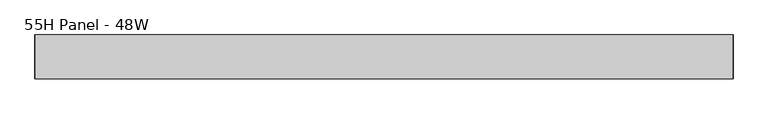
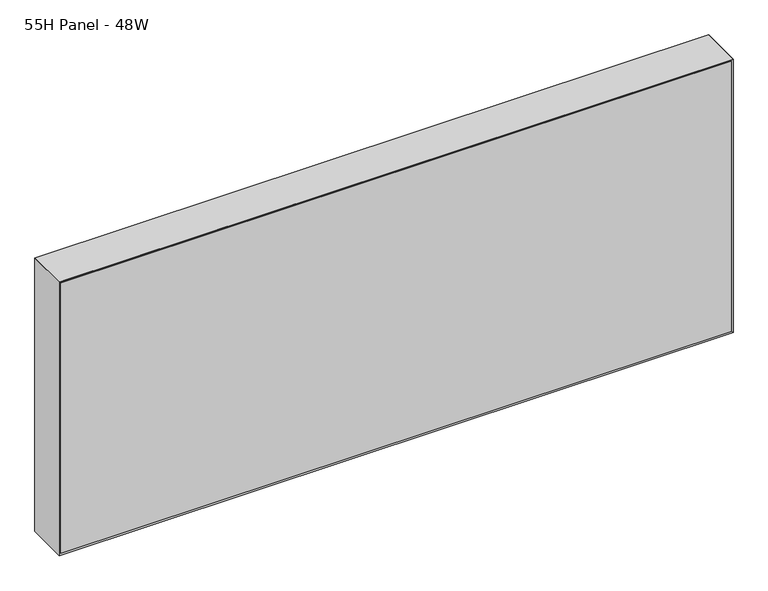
"""IFC4 building model written with IfcOpenShell, lengths in millimetres: furniture geometry, Steelcase - Montage - Frame - 20H - Enhanced Standard - Single Stack-On : 55H Panel - 48W."""

from ifc_helpers import new_model, si_unit, frame, origin, place, context, project, spatial, polyline, outline, extrude, faceted_brep, source, transform, mapped, element, save


def furniture_55h_panel_48w_88a1e8aa(model_context):
    return source(origin(), model_context, "Body", "SolidModel", [
        faceted_brep([(1209.6750027, 31.7500194, 1912.9374516), (9.5250028, 31.7500194, 1912.9374516), (9.5250028, 31.7500194, 1408.1125), (1209.6750027, 31.7500194, 1408.1125), (1216.025, 38.1000194, 1919.2874516), (1216.025, 38.1000194, 1401.7625), (3.175, 38.1000194, 1401.7625), (3.175, 38.1000194, 1919.2874516)], [[[0, 1, 2, 3]], [[4, 5, 6, 7]], [[4, 0, 3, 5]], [[5, 3, 2, 6]], [[6, 2, 1, 7]], [[7, 1, 0, 4]]]),
        faceted_brep([(1209.6750027, -31.7500194, 1912.9374516), (1209.6750027, -31.7500194, 1408.1125), (9.5250028, -31.7500194, 1408.1125), (9.5250028, -31.7500194, 1912.9374516), (1216.025, -38.1000194, 1919.2874516), (3.175, -38.1000194, 1919.2874516), (3.175, -38.1000194, 1401.7625), (1216.025, -38.1000194, 1401.7625)], [[[0, 1, 2, 3]], [[4, 5, 6, 7]], [[4, 7, 1, 0]], [[7, 6, 2, 1]], [[6, 5, 3, 2]], [[5, 4, 0, 3]]]),
        faceted_brep([(1219.2, -38.1000015, 1398.5875), (1219.2, 38.1000015, 1398.5875), (1219.2, 38.1000015, 1922.4624516), (1219.2, -38.1000106, 1922.4624515), (0.0, 38.1000015, 1398.5875), (0.0, -38.1000015, 1398.5875), (0.0, -38.1000015, 1922.4624516), (0.0, 38.1000015, 1922.4624516), (6.3500484, 31.749953, 1404.9375484), (1212.8499879, 31.749953, 1404.9375484), (6.35, -31.749953, 1404.9375484), (1212.8499879, -31.749953, 1404.9375484), (6.3500165, 31.749985, 1916.112435), (6.3500006, -31.7500009, 1916.1124031), (1212.8499879, -31.7499979, 1916.1124031), (1212.8499879, 31.7499889, 1916.1124394)], [[[0, 1, 2, 3]], [[4, 5, 6, 7]], [[1, 0, 5, 4]], [[1, 4, 8, 9]], [[9, 8, 10, 11]], [[5, 0, 11, 10]], [[4, 7, 12, 8]], [[6, 5, 10, 13]], [[10, 8, 12, 13]], [[9, 11, 14, 15]], [[0, 3, 14, 11]], [[2, 1, 9, 15]], [[3, 2, 15, 14]], [[7, 6, 13, 12]]]),
        faceted_brep([(1219.2, -38.1000015, 1922.4624516), (0.0, -38.1000015, 1922.4624516), (6.3500484, -31.749953, 1916.1124031), (1212.8499516, -31.749953, 1916.1124031), (6.3500484, 31.749953, 1916.1124031), (1212.8499516, 31.749953, 1916.1124031), (0.0, 38.1000015, 1922.4624516), (1219.2, 38.1000015, 1922.4624516)], [[[0, 1, 2, 3]], [[3, 2, 4, 5]], [[6, 7, 5, 4]], [[1, 0, 7, 6]], [[2, 1, 6, 4]], [[0, 3, 5, 7]]]),
        extrude(outline(polyline([(1212.8499879, 31.7500016), (1212.8499879, -31.7499985), (6.35, -31.7499985), (6.35, 31.7500016), (1212.8499879, 31.7500016)])), frame((0.0, 0.0, 1404.9327145), z_axis=(0.0, 0.0, 1.0), x_axis=(1.0, 0.0, 0.0)), (0.0, 0.0, 1.0), 511.1796886),
    ])


if __name__ == "__main__":
    model = new_model("IFC4")
    model_context = context("Model", 3, world=origin())
    ifc_project = project(units=[si_unit("LENGTHUNIT", "METRE", prefix="MILLI")], contexts=[model_context])
    site = spatial("IfcSite", under=ifc_project)
    building = spatial("IfcBuilding", under=site)
    placement = place(None, origin())
    furniture_55h_panel_48w_shape = furniture_55h_panel_48w_88a1e8aa(model_context)
    element("IfcFurniture", 1, ObjectType="Steelcase - Montage - Frame - 20H - Enhanced Standard - Single Stack-On : 55H Panel - 48W", at=placement, inside=building, context=model_context, shape_type="MappedRepresentation", body=[
        mapped(furniture_55h_panel_48w_shape, transform((0.0, 0.0, 0.0), x_axis=(1.0, 0.0, 0.0), y_axis=(0.0, 1.0, 0.0), z_axis=(0.0, 0.0, 1.0))),
    ])
    save(model, "model.ifc")
